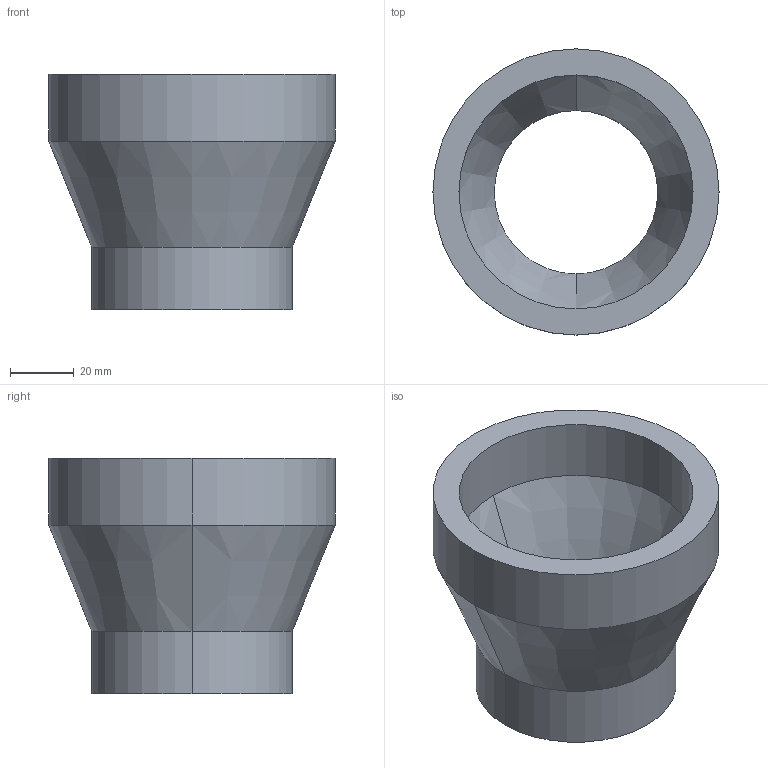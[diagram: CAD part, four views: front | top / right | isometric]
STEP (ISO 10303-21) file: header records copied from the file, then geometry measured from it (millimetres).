
FILE_DESCRIPTION (( 'STEP AP203' ), '1' );
FILE_NAME ('KP_9-90-63.step', '2011-08-08T11:41:15', ( '' ), ( '' ), 'SwSTEP 2.0', 'SolidWorks 2011', '' );
FILE_SCHEMA (( 'CONFIG_CONTROL_DESIGN' ));
Length unit declared in the file: millimetre
Products named in the file (1): KP_9-90-63
Bounding box: 90 x 90 x 74 mm (x, y, z)
Volume: 124537.7 mm3; surface area: 36337 mm2
Topology: 1 solids, 1 shells, 14 faces, 32 edges, 20 vertices
Faces by surface type: cylinder 8, cone 4, plane 2
Entity records: 485 total; most frequent: DIRECTION 82, CARTESIAN_POINT 67, ORIENTED_EDGE 64, AXIS2_PLACEMENT_3D 35, EDGE_CURVE 32, CIRCLE 20, VERTEX_POINT 20, EDGE_LOOP 16
